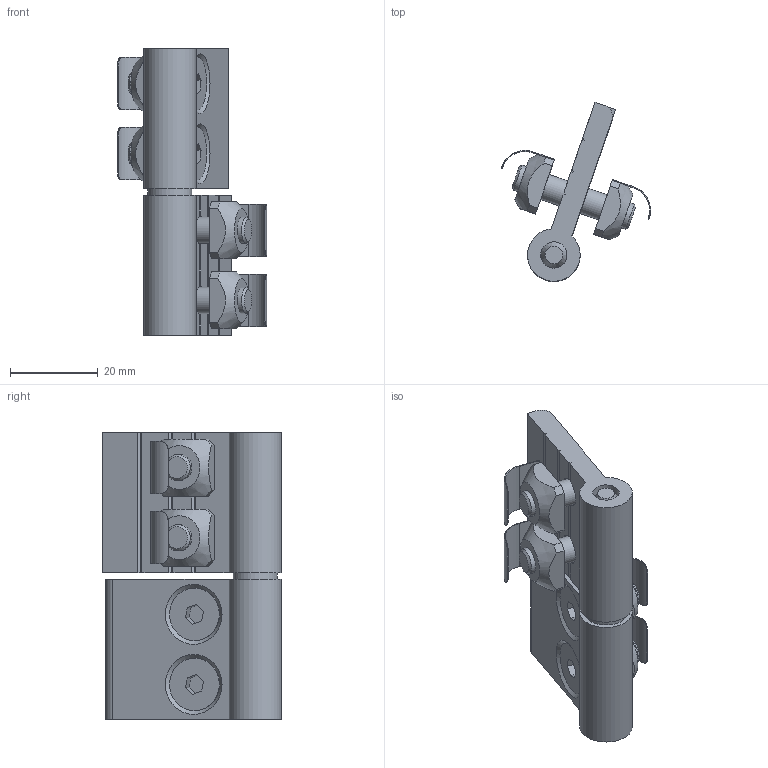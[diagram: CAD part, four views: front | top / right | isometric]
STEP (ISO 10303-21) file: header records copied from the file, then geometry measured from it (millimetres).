
FILE_DESCRIPTION((''),'2;1');
FILE_NAME('C:\Documents and Settings\Administrator\My Documents\Andys Backup Data\ANDY''S INVENTOR\INVENTOR LIBRARIES\MINITEC INVENTOR LIBRARIES\LINKS AND HINGES\A PACKED FILES\STEP FILES\21.1373 HINGE L 19_19 LEFT HAND.stp','2010-06-24T14:58:02',('Administrator'),(''),'Autodesk Inventor 2009','Autodesk Inventor 2009','');
FILE_SCHEMA(('AUTOMOTIVE_DESIGN { 1 0 10303 214 1 1 1 1 }'));
Length unit declared in the file: millimetre
Products named in the file (6): 21.1373 HINGE L 19_19 LEFT HAND; 21.1096 HINGE PIN; 21.1096 HINGE WASHER; 21.1373 HINGE 19 L AL BLOCK; 21.1506 M6x16 C'SUNK; 21.1330_2 M6 SQUARE NUT POS FXG
Assembly tree (8 placements, depth 2):
  21.1373 HINGE L 19_19 LEFT HAND
    21.1096 HINGE PIN
    21.1096 HINGE WASHER
    21.1373 HINGE 19 L AL BLOCK  x2
    21.1330_2 M6 SQUARE NUT POS FXG  x4
  21.1506 M6x16 C'SUNK
Bounding box: 34.03 x 40.83 x 65.5 mm (x, y, z)
Volume: 20316.3 mm3; surface area: 15472.8 mm2
Topology: 12 solids, 12 shells, 379 faces, 1037 edges, 684 vertices
Faces by surface type: plane 314, cylinder 39, cone 14, bspline 12
Full cylindrical faces by diameter (mm): 5.5 x2, 6 x12, 10 x1, 12 x4
Entity records: 8428 total; most frequent: CARTESIAN_POINT 1620, ORIENTED_EDGE 1384, DIRECTION 1376, EDGE_CURVE 692, VECTOR 514, LINE 514, VERTEX_POINT 470, AXIS2_PLACEMENT_3D 431
